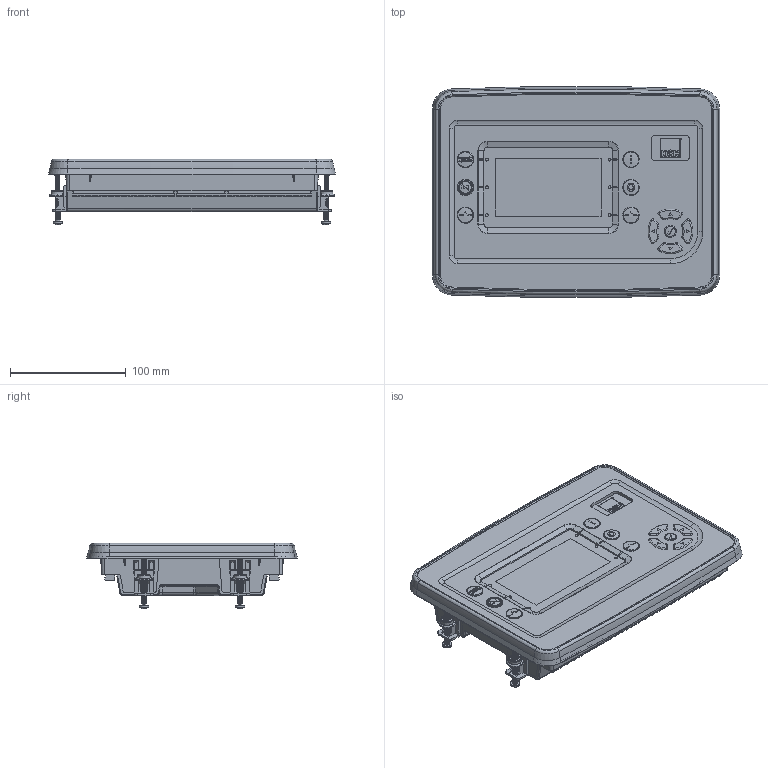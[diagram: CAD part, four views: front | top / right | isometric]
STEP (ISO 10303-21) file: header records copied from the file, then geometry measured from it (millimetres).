
FILE_DESCRIPTION (( 'STEP AP214' ), '1' );
FILE_NAME ('DSE-G86.STEP', '2021-03-31T10:13:23', ( '' ), ( '' ), 'SwSTEP 2.0', 'SolidWorks 2020', '' );
FILE_SCHEMA (( 'AUTOMOTIVE_DESIGN' ));
Length unit declared in the file: millimetre
Products named in the file (1): DSE-G86
Bounding box: 248.12 x 182.11 x 56.63 mm (x, y, z)
Volume: 1393644.8 mm3; surface area: 156488.8 mm2
Topology: 9 solids, 9 shells, 4518 faces, 10847 edges, 6502 vertices
Faces by surface type: plane 2292, cylinder 927, cone 647, bspline 491, sphere 95, torus 66
Full cylindrical faces by diameter (mm): 2.5 x6, 4 x228, 5 x4, 8 x4, 14 x6
Entity records: 145046 total; most frequent: CARTESIAN_POINT 47872, ORIENTED_EDGE 20176, DIRECTION 18329, EDGE_CURVE 10088, VERTEX_POINT 6486, AXIS2_PLACEMENT_3D 6111, VECTOR 6107, LINE 6107
